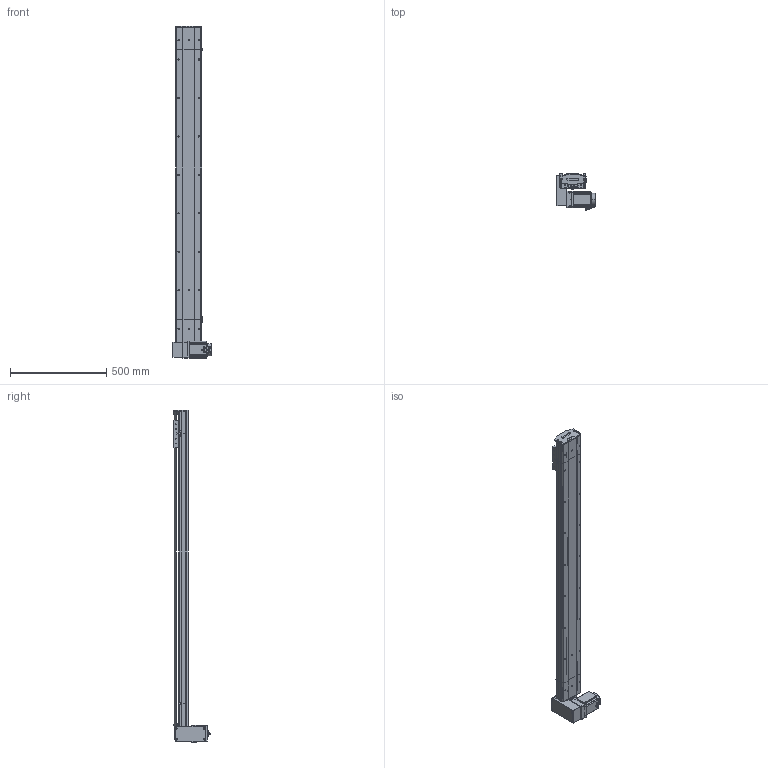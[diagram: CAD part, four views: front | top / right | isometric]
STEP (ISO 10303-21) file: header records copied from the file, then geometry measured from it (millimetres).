
FILE_DESCRIPTION (( 'STEP AP214' ), '1' );
FILE_NAME ('D14 TBH RU S1400.STEP', '2010-06-29T13:57:41', ( 'Conseil Régional Haute-Normandie' ), ( 'Conseil Régional Haute-Normandie' ), 'SwSTEP 2.0', 'SolidWorks 2010', '' );
FILE_SCHEMA (( 'AUTOMOTIVE_DESIGN' ));
Length unit declared in the file: millimetre
Products named in the file (39): corpl 1400_Default; Rail + couroie D14 Course 1400 ; couvercle D14 course L1400_Default; Tail D14B_Default; couvercle D14 head_Default; couroie 2_Default; poulie head_Default; Arbre+rail head D14; plaque de  bout head D14 RU_Default; corp head D14_Default; D14 TB H RU_Default; Couroie_Default; poulie tail_Default; Moteur motionking 90BLDC100A-640; vis M5 L8 90°_Default; corpl tail D14_Default; corps 90BLDC100A-640; avant 90BLDC100A-640; tete d''axe haut D14; vis M5 L16_Default; vis M5 L5_Default; codeur 90BLDC100-640; Conecteur2_Default; Conecteur_Default; Plaque racord D14_Default; D14 TBH RU S1400; chariot D14B_Default; Cvis M5 L70_Default; vis M5 L12_Default; Chariot D14; guide D14; Arbre+rail tail D14; Vis M5 L16-2_Default; plaque de  bout tail D14_Default; D14 couroie L1400_Default; Cache_Default; renvoi RH_Default; couvercle D14_Default; Cache arbre_Default
Assembly tree (68 placements, depth 4):
  D14 TBH RU S1400
    Tail D14B_Default
      plaque de  bout tail D14_Default
      couvercle D14_Default
      vis M5 L12_Default  x4
      vis M5 L16_Default  x2
      Couroie_Default
      poulie tail_Default
      Arbre+rail tail D14
      corpl tail D14_Default
      tete d''axe haut D14
      vis M5 L8 90°_Default  x2
    D14 couroie L1400_Default
      couvercle D14 course L1400_Default
      corpl 1400_Default
      Rail + couroie D14 Course 1400 
    chariot D14B_Default
      guide D14  x2
      vis M5 L12_Default  x4
      Chariot D14
    D14 TB H RU_Default
      Plaque racord D14_Default
      Cache_Default  x2
      vis M5 L12_Default  x12
      Vis M5 L16-2_Default  x4
      poulie head_Default
      Cvis M5 L70_Default  x4
      Moteur motionking 90BLDC100A-640
        corps 90BLDC100A-640
        Conecteur2_Default
        avant 90BLDC100A-640
        Conecteur_Default
        codeur 90BLDC100-640
      vis M5 L5_Default  x2
      Cache arbre_Default
      Arbre+rail head D14
      corp head D14_Default
      couroie 2_Default
      couvercle D14 head_Default
      renvoi RH_Default
      plaque de  bout head D14 RU_Default
Bounding box: 207.2 x 191.1 x 1725.75 mm (x, y, z)
Volume: 7303909.9 mm3; surface area: 2456976 mm2
Topology: 92 solids, 92 shells, 2645 faces, 6467 edges, 4170 vertices
Faces by surface type: plane 1593, cylinder 739, bspline 136, torus 89, cone 84, sphere 4
Entity records: 79640 total; most frequent: CARTESIAN_POINT 23621, ORIENTED_EDGE 9794, DIRECTION 9588, EDGE_CURVE 4897, VECTOR 3286, LINE 3286, VERTEX_POINT 3220, AXIS2_PLACEMENT_3D 3151
